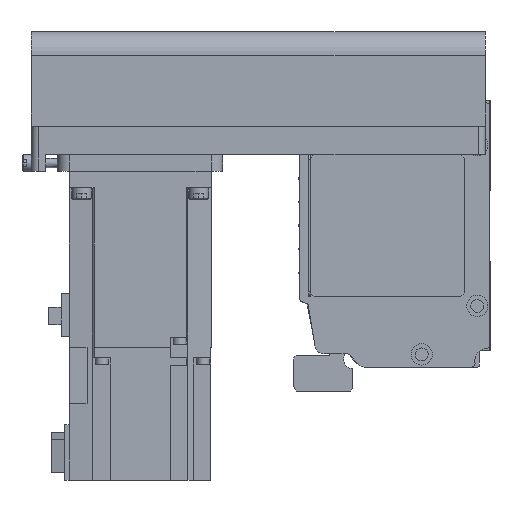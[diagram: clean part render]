
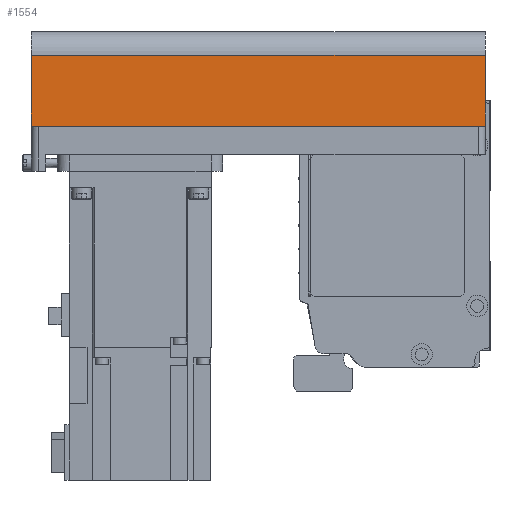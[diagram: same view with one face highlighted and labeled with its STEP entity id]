
A CAD part, left-side view. The second image highlights one B-rep face of the part: STEP entity #1554.
In plain terms, the highlighted planar face has unit normal (-1, 0, 0) as drawn and (0, 1, 0) by its records, which use the part's own axes.
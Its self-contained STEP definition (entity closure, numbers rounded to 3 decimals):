
#1554 = ADVANCED_FACE( '', ( #3477 ), #3478, .T. );
#3477 = FACE_OUTER_BOUND( '', #5845, .T. );
#3478 = PLANE( '', #5846 );
#5845 = EDGE_LOOP( '', ( #10122, #10123, #10124, #10125 ) );
#5846 = AXIS2_PLACEMENT_3D( '', #10126, #10127, #10128 );
#10122 = ORIENTED_EDGE( '', *, *, #15072, .F. );
#10123 = ORIENTED_EDGE( '', *, *, #14186, .F. );
#10124 = ORIENTED_EDGE( '', *, *, #15073, .T. );
#10125 = ORIENTED_EDGE( '', *, *, #14992, .T. );
#10126 = CARTESIAN_POINT( '', ( -192., 40., -42. ) );
#10127 = DIRECTION( '', ( 0., 1., 0. ) );
#10128 = DIRECTION( '', ( 0., 0., 1. ) );
#14186 = EDGE_CURVE( '', #17191, #17187, #17193, .T. );
#14992 = EDGE_CURVE( '', #18428, #18429, #18430, .T. );
#15072 = EDGE_CURVE( '', #17187, #18429, #18536, .T. );
#15073 = EDGE_CURVE( '', #17191, #18428, #18537, .T. );
#17187 = VERTEX_POINT( '', #21264 );
#17191 = VERTEX_POINT( '', #21269 );
#17193 = LINE( '', #21271, #21272 );
#18428 = VERTEX_POINT( '', #22937 );
#18429 = VERTEX_POINT( '', #22938 );
#18430 = LINE( '', #22939, #22940 );
#18536 = LINE( '', #23085, #23086 );
#18537 = LINE( '', #23087, #23088 );
#21264 = CARTESIAN_POINT( '', ( 0., 40., -42. ) );
#21269 = CARTESIAN_POINT( '', ( -192., 40., -42. ) );
#21271 = CARTESIAN_POINT( '', ( -192., 40., -42. ) );
#21272 = VECTOR( '', #25421, 1000. );
#22937 = CARTESIAN_POINT( '', ( -192., 40., -12.1 ) );
#22938 = CARTESIAN_POINT( '', ( 0., 40., -12.1 ) );
#22939 = CARTESIAN_POINT( '', ( -192., 40., -12.1 ) );
#22940 = VECTOR( '', #26380, 1000. );
#23085 = CARTESIAN_POINT( '', ( 0., 40., -42. ) );
#23086 = VECTOR( '', #26468, 1000. );
#23087 = CARTESIAN_POINT( '', ( -192., 40., -42. ) );
#23088 = VECTOR( '', #26469, 1000. );
#25421 = DIRECTION( '', ( 1., 0., 0. ) );
#26380 = DIRECTION( '', ( 1., 0., 0. ) );
#26468 = DIRECTION( '', ( 0., 0., 1. ) );
#26469 = DIRECTION( '', ( 0., 0., 1. ) );
